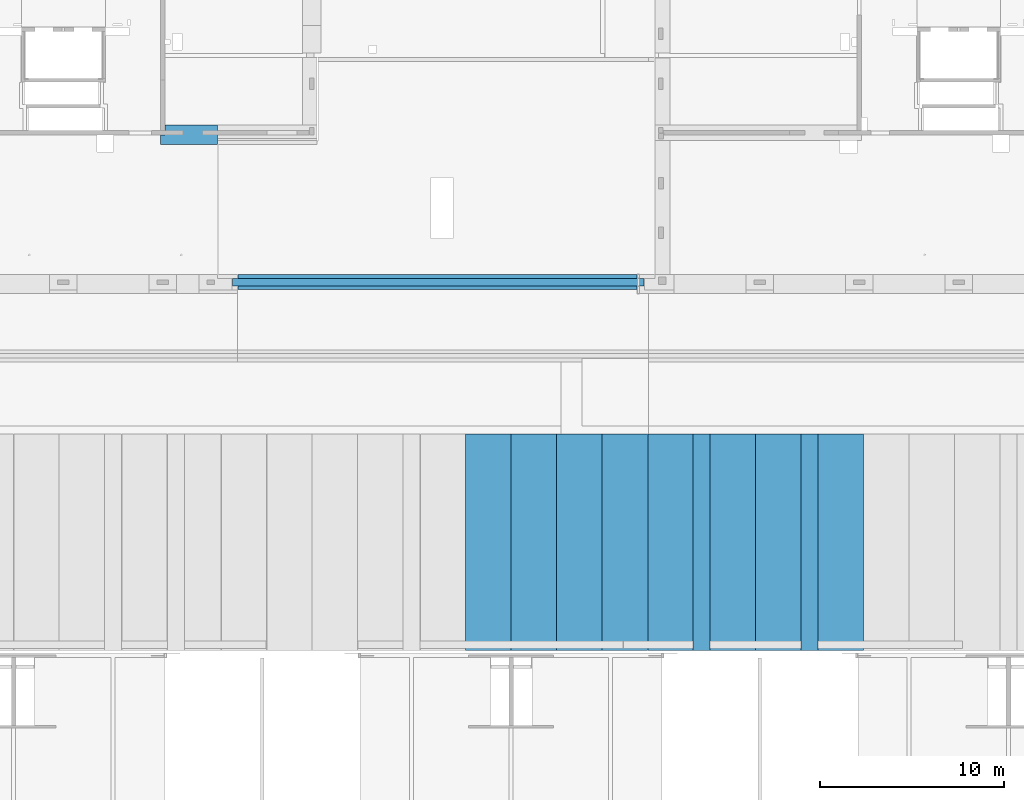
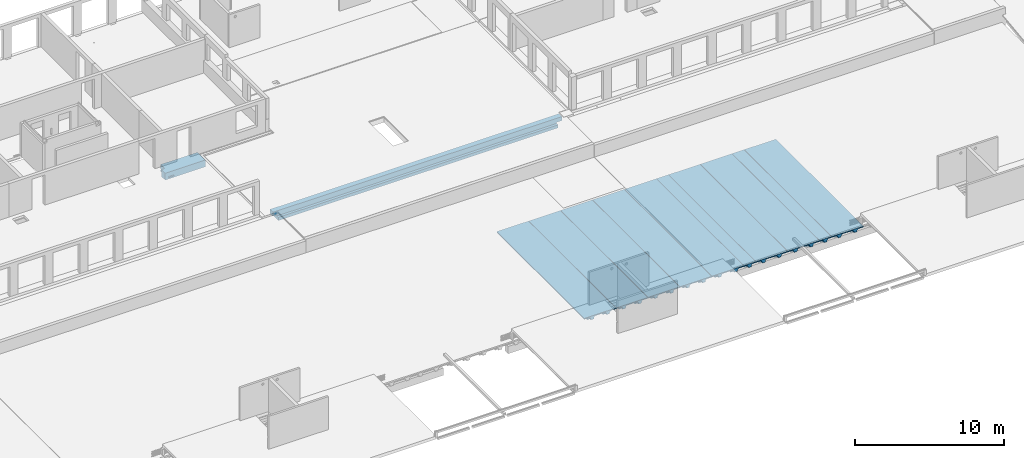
# One storey, part 29 of 36: 12 beams.
"""IFC2X3 building model written with IfcOpenShell, lengths in millimetres."""

from ifc_helpers import new_model, entity, si_unit, converted_unit, derived_unit, direction, frame, origin, place, context, subcontext, project, spatial, faceted_brep, material, type_object, element, save


model = new_model("IFC2X3")

# Units and contexts
model_context = context("Model", 3, precision=0.01, world=origin(), true_north=direction((6.12303176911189e-17, 1.0)))
body_context = subcontext(model_context, "Body", "Model", "MODEL_VIEW")
ifc_project = project(units=[si_unit("LENGTHUNIT", "METRE", prefix="MILLI"), si_unit("AREAUNIT", "SQUARE_METRE"), si_unit("VOLUMEUNIT", "CUBIC_METRE"), converted_unit("PLANEANGLEUNIT", "DEGREE", entity("IfcRatioMeasure", 0.0174532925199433), si_unit("PLANEANGLEUNIT", "RADIAN"), dimensions=[0, 0, 0, 0, 0, 0, 0]), si_unit("MASSUNIT", "GRAM", prefix="KILO"), derived_unit("MASSDENSITYUNIT", [(si_unit("MASSUNIT", "GRAM", prefix="KILO"), 1), (si_unit("LENGTHUNIT", "METRE"), -3)]), si_unit("TIMEUNIT", "SECOND"), si_unit("FREQUENCYUNIT", "HERTZ"), si_unit("THERMODYNAMICTEMPERATUREUNIT", "DEGREE_CELSIUS"), derived_unit("THERMALTRANSMITTANCEUNIT", [(si_unit("MASSUNIT", "GRAM", prefix="KILO"), 1), (si_unit("THERMODYNAMICTEMPERATUREUNIT", "KELVIN"), -1), (si_unit("TIMEUNIT", "SECOND"), -3)]), derived_unit("VOLUMETRICFLOWRATEUNIT", [(si_unit("LENGTHUNIT", "METRE"), 3), (si_unit("TIMEUNIT", "SECOND"), -1)]), si_unit("ELECTRICCURRENTUNIT", "AMPERE"), si_unit("ELECTRICVOLTAGEUNIT", "VOLT"), si_unit("POWERUNIT", "WATT"), si_unit("FORCEUNIT", "NEWTON", prefix="KILO"), si_unit("ILLUMINANCEUNIT", "LUX"), si_unit("LUMINOUSFLUXUNIT", "LUMEN"), si_unit("LUMINOUSINTENSITYUNIT", "CANDELA"), derived_unit("USERDEFINED", [(si_unit("MASSUNIT", "GRAM", prefix="KILO"), -1), (si_unit("LENGTHUNIT", "METRE"), -2), (si_unit("TIMEUNIT", "SECOND"), 3), (si_unit("LUMINOUSFLUXUNIT", "LUMEN"), 1)]), derived_unit("LINEARVELOCITYUNIT", [(si_unit("LENGTHUNIT", "METRE"), 1), (si_unit("TIMEUNIT", "SECOND"), -1)]), si_unit("PRESSUREUNIT", "PASCAL"), derived_unit("USERDEFINED", [(si_unit("LENGTHUNIT", "METRE"), -2), (si_unit("MASSUNIT", "GRAM", prefix="KILO"), 1), (si_unit("TIMEUNIT", "SECOND"), -2)])], contexts=[model_context])

# Site, building, storey
site_placement = place(None, origin())
site = spatial("IfcSite", under=ifc_project, at=site_placement, Name="Default", CompositionType="ELEMENT")
building_placement = place(site_placement, origin())
building = spatial("IfcBuilding", under=site, at=building_placement, Name="niet gebruiken", CompositionType="ELEMENT")
storey_placement = place(building_placement, frame((0.0, 0.0, 12600.0)))
storey = spatial("IfcBuildingStorey", under=building, at=storey_placement, Name="04 vierde verdieping", CompositionType="ELEMENT", Elevation=12600.0)

# Beams
ifc_material_1 = material(Name="NLRS_f2_beton prefab")
beam_type_1 = type_object("IfcBeamType", Name="NLRS_28.11_SF_WPB_prefabbeton balk dubbele sponning_gen:800x660/200x410/200x410", PredefinedType="BEAM")
beam_1_placement = place(storey_placement, frame((52390.0, 28481.0, -900.0)))
element("IfcBeam", 1, at=beam_1_placement, inside=storey, type_object=beam_type_1, material=ifc_material_1, Name="NLRS_28.11_SF_WPB_prefabbeton balk dubbele sponning_gen:800x660/200x410/200x410", ObjectType="NLRS_28.11_SF_WPB_prefabbeton balk dubbele sponning_gen:800x660/200x410/200x410", context=body_context, shape_type="Brep", body=[
    faceted_brep([(0.0, 200.0, 660.0), (0.0, 600.0, 660.0), (0.0, 600.0, 335.0), (0.0, 200.0, 335.0), (22335.0, 600.0, 660.0), (22335.0, 200.0, 660.0), (22335.0, 200.0, 335.000000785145), (22335.0, 600.0, 335.000000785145), (260.0, 200.0, 660.0), (300.0, 0.0, 250.0), (300.0, 0.0, 0.0), (21935.0, 0.0, 0.0), (21935.0, 0.0, 250.0), (21935.0, 600.0, 335.000000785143), (21935.0, 600.0, 250.0), (300.0, 600.0, 250.0), (300.0, 600.0, 335.0), (300.0, 800.0, 250.0), (21935.0, 800.0, 250.0), (300.0, 200.0, 335.0), (300.0, 200.0, 250.0), (21935.0, 200.0, 250.0), (21935.0, 200.0, 335.000000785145), (300.0, 800.0, 0.0), (21935.0, 800.0, 0.0)], [[[0, 1, 2, 3]], [[4, 5, 6, 7]], [[1, 0, 8, 5, 4]], [[9, 10, 11, 12]], [[1, 4, 7, 13, 14, 15, 16, 2]], [[17, 15, 14, 18]], [[5, 8, 0, 3, 19, 20, 21, 22, 6]], [[20, 9, 12, 21]], [[23, 17, 18, 24]], [[10, 23, 24, 11]], [[10, 9, 20, 19, 16, 15, 17, 23]], [[3, 2, 16, 19]], [[13, 22, 21, 12, 11, 24, 18, 14]], [[22, 13, 7, 6]]]),
])
ifc_material_2 = material(Name="NLRS_f2_beton ihwg")
beam_type_2 = type_object("IfcBeamType", Name="NLRS_28.11_SF_WPB_betonbalk ihwg recht_gen:1050x560", PredefinedType="BEAM")
beam_2_placement = place(storey_placement, frame((48475.0, 36356.0, -900.0)))
element("IfcBeam", 2, at=beam_2_placement, inside=storey, type_object=beam_type_2, material=ifc_material_2, Name="NLRS_28.11_SF_WPB_betonbalk ihwg recht_gen:1050x560", ObjectType="NLRS_28.11_SF_WPB_betonbalk ihwg recht_gen:1050x560", context=body_context, shape_type="Brep", body=[
    faceted_brep([(0.0, 0.0, 0.0), (0.0, 0.0, 560.0), (0.0, 500.0, 560.0), (0.0, 500.0, 0.0), (3100.0, 0.0, 560.0), (3100.0, 20.0, 560.0), (3100.0, 200.0, 560.0), (3100.0, 325.0, 560.0), (3100.0, 1050.0, 560.0), (250.0, 1050.0, 560.0), (250.0, 500.0, 560.0), (3100.0, 0.0, 0.0), (3100.0, 0.0, 250.0), (250.0, 0.0, 210.0), (690.0, 0.0, 210.0), (690.0, 0.0, 110.0), (250.0, 0.0, 110.0), (250.0, 500.0, 0.0), (250.0, 1050.0, 0.0), (3100.0, 1050.0, 0.0), (250.0, 1050.0, 110.0), (690.0, 1050.0, 110.0), (690.0, 1050.0, 210.0), (250.0, 1050.0, 210.0), (250.0, 500.0, 110.0), (250.0, 500.0, 210.0)], [[[0, 1, 2, 3]], [[1, 4, 5, 6, 7, 8, 9, 10, 2]], [[1, 0, 11, 12, 4], [13, 14, 15, 16]], [[11, 0, 3, 17, 18, 19]], [[8, 19, 18, 20, 21, 22, 23, 9]], [[4, 12, 11, 19, 8, 7, 6, 5]], [[17, 24, 20, 18]], [[10, 25, 24, 17, 3, 2]], [[22, 14, 13, 25, 23]], [[15, 21, 20, 24, 16]], [[14, 22, 21, 15]], [[13, 16, 24, 25]], [[25, 10, 9, 23]]]),
])
beam_type_3 = type_object("IfcBeamType", Name="NLRS_28.11_SF_WPB_tt-plaatvloer Holcon 102B_gen:TT-plaat, b=2460", PredefinedType="BEAM")
beam_3_placement = place(storey_placement, frame((84173.2615012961, 8896.0, -1970.0), z_axis=(0.0, 0.0, 1.0), x_axis=(0.0, -1.0, 0.0)))
element("IfcBeam", 3, at=beam_3_placement, inside=storey, type_object=beam_type_3, material=ifc_material_1, Name="NLRS_28.11_SF_WPB_tt-plaatvloer Holcon 102B_gen:TT-plaat, b=2460", ObjectType="NLRS_28.11_SF_WPB_tt-plaatvloer Holcon 102B_gen:TT-plaat, b=2460", context=body_context, shape_type="Brep", body=[
    faceted_brep([(-11730.0, 0.0, 610.0), (-11730.0, 0.0, 529.999995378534), (0.0, 0.0, 529.999995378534), (0.0, 0.0, 610.0), (-520.0, 733.513622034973, 320.0), (-520.0, 493.468888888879, 320.0), (-520.0, 518.500000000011, 0.0), (-520.0, 708.482510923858, 0.0), (-11480.0, 501.29111111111, 220.0), (-11480.0, 725.691399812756, 220.0), (-11480.0, 708.482510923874, 0.0), (-11480.0, 518.50000000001, 0.0), (-11730.0, 744.000076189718, 454.059783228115), (-11730.0, 819.940288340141, 529.999995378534), (0.0, 819.940288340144, 529.999995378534), (0.0, 744.000076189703, 454.059783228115), (-11730.0, 1971.01904939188, 454.078756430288), (-11730.0, 2046.94028834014, 529.999995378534), (0.0, 2046.94028834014, 529.999995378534), (0.0, 1971.01904939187, 454.078756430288), (-11730.0, 1634.05971165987, 529.999995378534), (-11730.0, 1709.99992381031, 454.059783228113), (0.0, 1709.99992381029, 454.059783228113), (0.0, 1634.05971165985, 529.999995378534), (-11730.0, 2454.0, 610.0), (-11730.0, 2454.0, 529.999995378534), (-11730.0, 1952.7088888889, 220.0), (-11730.0, 1728.30860018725, 220.0), (-11730.0, 725.691399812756, 220.0), (-11730.0, 501.291111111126, 220.0), (-11730.0, 482.980950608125, 454.078756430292), (-11730.0, 407.059711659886, 529.999995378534), (0.0, 407.059711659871, 529.999995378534), (0.0, 482.980950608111, 454.078756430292), (0.0, 493.46888888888, 320.0), (0.0, 733.513622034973, 320.0), (0.0, 1720.48637796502, 320.0), (0.0, 1960.5311111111, 320.0), (0.0, 2454.0, 529.999995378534), (0.0, 2454.0, 610.0), (-520.0, 1935.5, 0.0), (-520.0, 1745.51748907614, 0.0), (-11480.0, 1745.51748907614, 0.0), (-11480.0, 1935.5, 0.0), (-520.0, 1960.53111111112, 320.0), (-11480.0, 1952.7088888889, 220.0), (-11480.0, 1728.30860018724, 220.0), (-520.0, 1720.48637796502, 320.0)], [[[0, 1, 2, 3]], [[4, 5, 6, 7]], [[8, 9, 10, 11]], [[12, 13, 14, 15]], [[16, 17, 18, 19]], [[20, 21, 22, 23]], [[0, 24, 25, 17, 16, 26, 27, 21, 20, 13, 12, 28, 29, 30, 31, 1]], [[3, 2, 32, 33, 34, 35, 15, 14, 23, 22, 36, 37, 19, 18, 38, 39]], [[1, 31, 32, 2]], [[24, 0, 3, 39]], [[25, 24, 39, 38]], [[17, 25, 38, 18]], [[13, 20, 23, 14]], [[40, 41, 42, 43]], [[16, 19, 37, 44, 40, 43, 45, 26]], [[22, 21, 27, 46, 42, 41, 47, 36]], [[12, 15, 35, 4, 7, 10, 9, 28]], [[7, 6, 11, 10]], [[33, 30, 29, 8, 11, 6, 5, 34]], [[5, 4, 35, 34]], [[9, 8, 29, 28]], [[31, 30, 33, 32]], [[47, 44, 37, 36]], [[46, 45, 43, 42]], [[44, 47, 41, 40]], [[45, 46, 27, 26]]]),
])
beam_4_placement = place(storey_placement, frame((80773.0, 8896.0, -1970.0), z_axis=(0.0, 0.0, 1.0), x_axis=(0.0, -1.0, 0.0)))
element("IfcBeam", 4, at=beam_4_placement, inside=storey, type_object=beam_type_3, material=ifc_material_1, Name="NLRS_28.11_SF_WPB_tt-plaatvloer Holcon 102B_gen:TT-plaat, b=2460", ObjectType="NLRS_28.11_SF_WPB_tt-plaatvloer Holcon 102B_gen:TT-plaat, b=2460", context=body_context, shape_type="Brep", body=[
    faceted_brep([(-11730.0, 0.0, 610.0), (-11730.0, 0.0, 529.999995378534), (0.0, 0.0, 529.999995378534), (0.0, 0.0, 610.0), (-520.0, 733.513622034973, 320.0), (-520.0, 493.468888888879, 320.0), (-520.0, 518.500000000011, 0.0), (-520.0, 708.482510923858, 0.0), (-11480.0, 501.29111111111, 220.0), (-11480.0, 725.691399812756, 220.0), (-11480.0, 708.482510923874, 0.0), (-11480.0, 518.50000000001, 0.0), (-11730.0, 744.000076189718, 454.059783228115), (-11730.0, 819.940288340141, 529.999995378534), (0.0, 819.940288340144, 529.999995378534), (0.0, 744.000076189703, 454.059783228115), (-11730.0, 1971.01904939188, 454.078756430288), (-11730.0, 2046.94028834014, 529.999995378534), (0.0, 2046.94028834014, 529.999995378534), (0.0, 1971.01904939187, 454.078756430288), (-11730.0, 1634.05971165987, 529.999995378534), (-11730.0, 1709.99992381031, 454.059783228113), (0.0, 1709.99992381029, 454.059783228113), (0.0, 1634.05971165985, 529.999995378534), (-11730.0, 2454.0, 610.0), (-11730.0, 2454.0, 529.999995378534), (-11730.0, 1952.7088888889, 220.0), (-11730.0, 1728.30860018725, 220.0), (-11730.0, 725.691399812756, 220.0), (-11730.0, 501.291111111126, 220.0), (-11730.0, 482.980950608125, 454.078756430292), (-11730.0, 407.059711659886, 529.999995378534), (0.0, 407.059711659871, 529.999995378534), (0.0, 482.980950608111, 454.078756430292), (0.0, 493.46888888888, 320.0), (0.0, 733.513622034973, 320.0), (0.0, 1720.48637796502, 320.0), (0.0, 1960.5311111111, 320.0), (0.0, 2454.0, 529.999995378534), (0.0, 2454.0, 610.0), (-520.0, 1935.5, 0.0), (-520.0, 1745.51748907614, 0.0), (-11480.0, 1745.51748907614, 0.0), (-11480.0, 1935.5, 0.0), (-520.0, 1960.53111111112, 320.0), (-11480.0, 1952.7088888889, 220.0), (-11480.0, 1728.30860018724, 220.0), (-520.0, 1720.48637796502, 320.0)], [[[0, 1, 2, 3]], [[4, 5, 6, 7]], [[8, 9, 10, 11]], [[12, 13, 14, 15]], [[16, 17, 18, 19]], [[20, 21, 22, 23]], [[0, 24, 25, 17, 16, 26, 27, 21, 20, 13, 12, 28, 29, 30, 31, 1]], [[3, 2, 32, 33, 34, 35, 15, 14, 23, 22, 36, 37, 19, 18, 38, 39]], [[1, 31, 32, 2]], [[24, 0, 3, 39]], [[25, 24, 39, 38]], [[17, 25, 38, 18]], [[13, 20, 23, 14]], [[40, 41, 42, 43]], [[16, 19, 37, 44, 40, 43, 45, 26]], [[22, 21, 27, 46, 42, 41, 47, 36]], [[12, 15, 35, 4, 7, 10, 9, 28]], [[7, 6, 11, 10]], [[33, 30, 29, 8, 11, 6, 5, 34]], [[5, 4, 35, 34]], [[9, 8, 29, 28]], [[31, 30, 33, 32]], [[46, 45, 43, 42]], [[45, 46, 27, 26]], [[44, 47, 41, 40]], [[47, 44, 37, 36]]]),
])
beam_5_placement = place(storey_placement, frame((78304.828288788, 8896.0, -1970.0), z_axis=(0.0, 0.0, 1.0), x_axis=(0.0, -1.0, 0.0)))
element("IfcBeam", 5, at=beam_5_placement, inside=storey, type_object=beam_type_3, material=ifc_material_1, Name="NLRS_28.11_SF_WPB_tt-plaatvloer Holcon 102B_gen:TT-plaat, b=2460", ObjectType="NLRS_28.11_SF_WPB_tt-plaatvloer Holcon 102B_gen:TT-plaat, b=2460", context=body_context, shape_type="Brep", body=[
    faceted_brep([(-11730.0, 0.0, 610.0), (-11730.0, 0.0, 529.999995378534), (0.0, 0.0, 529.999995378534), (0.0, 0.0, 610.0), (-520.0, 733.513622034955, 320.0), (-520.0, 493.468888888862, 320.0), (-520.0, 518.499999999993, 0.0), (-520.0, 708.482510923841, 0.0), (-11480.0, 501.291111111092, 220.0), (-11480.0, 725.691399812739, 220.0), (-11480.0, 708.482510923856, 0.0), (-11480.0, 518.499999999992, 0.0), (-11730.0, 744.000076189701, 454.059783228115), (-11730.0, 819.940288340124, 529.999995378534), (0.0, 819.940288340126, 529.999995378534), (0.0, 744.000076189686, 454.059783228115), (-11730.0, 1971.01904939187, 454.078756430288), (-11730.0, 2046.94028834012, 529.999995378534), (0.0, 2046.94028834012, 529.999995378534), (0.0, 1971.01904939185, 454.078756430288), (-11730.0, 1634.05971165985, 529.999995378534), (-11730.0, 1709.99992381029, 454.059783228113), (0.0, 1709.99992381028, 454.059783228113), (0.0, 1634.05971165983, 529.999995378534), (-11730.0, 2454.0, 610.0), (-11730.0, 2454.0, 529.999995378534), (-11730.0, 1952.70888888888, 220.0), (-11730.0, 1728.30860018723, 220.0), (-11730.0, 725.691399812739, 220.0), (-11730.0, 501.291111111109, 220.0), (-11730.0, 482.980950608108, 454.078756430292), (-11730.0, 407.059711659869, 529.999995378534), (0.0, 407.059711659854, 529.999995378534), (0.0, 482.980950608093, 454.078756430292), (0.0, 493.468888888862, 320.0), (0.0, 733.513622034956, 320.0), (0.0, 1720.48637796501, 320.0), (0.0, 1960.53111111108, 320.0), (0.0, 2454.0, 529.999995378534), (0.0, 2454.0, 610.0), (-520.0, 1935.49999999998, 0.0), (-520.0, 1745.51748907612, 0.0), (-11480.0, 1745.51748907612, 0.0), (-11480.0, 1935.49999999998, 0.0), (-520.0, 1960.5311111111, 320.0), (-11480.0, 1952.70888888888, 220.0), (-11480.0, 1728.30860018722, 220.0), (-520.0, 1720.486377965, 320.0)], [[[0, 1, 2, 3]], [[4, 5, 6, 7]], [[8, 9, 10, 11]], [[12, 13, 14, 15]], [[16, 17, 18, 19]], [[20, 21, 22, 23]], [[0, 24, 25, 17, 16, 26, 27, 21, 20, 13, 12, 28, 29, 30, 31, 1]], [[3, 2, 32, 33, 34, 35, 15, 14, 23, 22, 36, 37, 19, 18, 38, 39]], [[1, 31, 32, 2]], [[24, 0, 3, 39]], [[25, 24, 39, 38]], [[17, 25, 38, 18]], [[13, 20, 23, 14]], [[40, 41, 42, 43]], [[16, 19, 37, 44, 40, 43, 45, 26]], [[22, 21, 27, 46, 42, 41, 47, 36]], [[12, 15, 35, 4, 7, 10, 9, 28]], [[7, 6, 11, 10]], [[33, 30, 29, 8, 11, 6, 5, 34]], [[5, 4, 35, 34]], [[9, 8, 29, 28]], [[31, 30, 33, 32]], [[45, 46, 27, 26]], [[47, 44, 37, 36]], [[44, 47, 41, 40]], [[46, 45, 43, 42]]]),
])
beam_6_placement = place(storey_placement, frame((74923.0, 8896.0, -1970.0), z_axis=(0.0, 0.0, 1.0), x_axis=(0.0, -1.0, 0.0)))
element("IfcBeam", 6, at=beam_6_placement, inside=storey, type_object=beam_type_3, material=ifc_material_1, Name="NLRS_28.11_SF_WPB_tt-plaatvloer Holcon 102B_gen:TT-plaat, b=2460", ObjectType="NLRS_28.11_SF_WPB_tt-plaatvloer Holcon 102B_gen:TT-plaat, b=2460", context=body_context, shape_type="Brep", body=[
    faceted_brep([(-11730.0, 0.0, 610.0), (-11730.0, 0.0, 529.999995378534), (0.0, 0.0, 529.999995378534), (0.0, 0.0, 610.0), (-520.0, 733.513622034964, 320.0), (-520.0, 493.468888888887, 320.0), (-520.0, 518.500000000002, 0.0), (-520.0, 708.482510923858, 0.0), (-11480.0, 501.29111111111, 220.0), (-11480.0, 725.691399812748, 220.0), (-11480.0, 708.482510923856, 0.0), (-11480.0, 518.500000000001, 0.0), (-11730.0, 744.000076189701, 454.059783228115), (-11730.0, 819.940288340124, 529.999995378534), (0.0, 819.940288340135, 529.999995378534), (0.0, 744.000076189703, 454.059783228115), (-11730.0, 1971.01904939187, 454.078756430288), (-11730.0, 2046.94028834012, 529.999995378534), (0.0, 2046.94028834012, 529.999995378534), (0.0, 1971.01904939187, 454.078756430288), (-11730.0, 1634.05971165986, 529.999995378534), (-11730.0, 1709.99992381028, 454.059783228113), (0.0, 1709.99992381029, 454.059783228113), (0.0, 1634.05971165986, 529.999995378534), (-11730.0, 2454.0, 610.0), (-11730.0, 2454.0, 529.999995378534), (-11730.0, 1952.70888888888, 220.0), (-11730.0, 1728.30860018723, 220.0), (-11730.0, 725.691399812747, 220.0), (-11730.0, 501.2911111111, 220.0), (-11730.0, 482.980950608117, 454.078756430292), (-11730.0, 407.059711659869, 529.999995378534), (0.0, 407.059711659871, 529.999995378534), (0.0, 482.980950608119, 454.078756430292), (0.0, 493.468888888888, 320.0), (0.0, 733.513622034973, 320.0), (0.0, 1720.48637796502, 320.0), (0.0, 1960.5311111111, 320.0), (0.0, 2454.0, 529.999995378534), (0.0, 2454.0, 610.0), (-520.0, 1935.5, 0.0), (-520.0, 1745.51748907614, 0.0), (-11480.0, 1745.51748907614, 0.0), (-11480.0, 1935.49999999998, 0.0), (-520.0, 1960.53111111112, 320.0), (-11480.0, 1952.70888888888, 220.0), (-11480.0, 1728.30860018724, 220.0), (-520.0, 1720.48637796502, 320.0)], [[[0, 1, 2, 3]], [[4, 5, 6, 7]], [[8, 9, 10, 11]], [[12, 13, 14, 15]], [[16, 17, 18, 19]], [[20, 21, 22, 23]], [[0, 24, 25, 17, 16, 26, 27, 21, 20, 13, 12, 28, 29, 30, 31, 1]], [[3, 2, 32, 33, 34, 35, 15, 14, 23, 22, 36, 37, 19, 18, 38, 39]], [[1, 31, 32, 2]], [[24, 0, 3, 39]], [[25, 24, 39, 38]], [[17, 25, 38, 18]], [[13, 20, 23, 14]], [[40, 41, 42, 43]], [[16, 19, 37, 44, 40, 43, 45, 26]], [[22, 21, 27, 46, 42, 41, 47, 36]], [[12, 15, 35, 4, 7, 10, 9, 28]], [[7, 6, 11, 10]], [[33, 30, 29, 8, 11, 6, 5, 34]], [[5, 4, 35, 34]], [[9, 8, 29, 28]], [[31, 30, 33, 32]], [[45, 46, 27, 26]], [[46, 45, 43, 42]], [[47, 44, 37, 36]], [[44, 47, 41, 40]]]),
])
beam_7_placement = place(storey_placement, frame((72443.0, 8896.0, -1970.0), z_axis=(0.0, 0.0, 1.0), x_axis=(0.0, -1.0, 0.0)))
element("IfcBeam", 7, at=beam_7_placement, inside=storey, type_object=beam_type_3, material=ifc_material_1, Name="NLRS_28.11_SF_WPB_tt-plaatvloer Holcon 102B_gen:TT-plaat, b=2460", ObjectType="NLRS_28.11_SF_WPB_tt-plaatvloer Holcon 102B_gen:TT-plaat, b=2460", context=body_context, shape_type="Brep", body=[
    faceted_brep([(-11730.0, 0.0, 610.0), (-11730.0, 0.0, 529.999995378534), (0.0, 0.0, 529.999995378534), (0.0, 0.0, 610.0), (-520.0, 733.513622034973, 320.0), (-520.0, 493.468888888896, 320.0), (-520.0, 518.500000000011, 0.0), (-520.0, 708.482510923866, 0.0), (-11480.0, 501.291111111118, 220.0), (-11480.0, 725.691399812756, 220.0), (-11480.0, 708.482510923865, 0.0), (-11480.0, 518.50000000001, 0.0), (-11730.0, 744.000076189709, 454.059783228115), (-11730.0, 819.940288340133, 529.999995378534), (0.0, 819.940288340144, 529.999995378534), (0.0, 744.000076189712, 454.059783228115), (-11730.0, 1971.01904939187, 454.078756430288), (-11730.0, 2046.94028834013, 529.999995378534), (0.0, 2046.94028834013, 529.999995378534), (0.0, 1971.01904939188, 454.078756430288), (-11730.0, 1634.05971165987, 529.999995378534), (-11730.0, 1709.99992381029, 454.059783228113), (0.0, 1709.9999238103, 454.059783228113), (0.0, 1634.05971165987, 529.999995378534), (-11730.0, 2454.0, 610.0), (-11730.0, 2454.0, 529.999995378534), (-11730.0, 1952.70888888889, 220.0), (-11730.0, 1728.30860018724, 220.0), (-11730.0, 725.691399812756, 220.0), (-11730.0, 501.291111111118, 220.0), (-11730.0, 482.980950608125, 454.078756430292), (-11730.0, 407.059711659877, 529.999995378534), (0.0, 407.05971165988, 529.999995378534), (0.0, 482.980950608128, 454.078756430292), (0.0, 493.468888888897, 320.0), (0.0, 733.513622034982, 320.0), (0.0, 1720.48637796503, 320.0), (0.0, 1960.53111111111, 320.0), (0.0, 2454.0, 529.999995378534), (0.0, 2454.0, 610.0), (-520.0, 1935.5, 0.0), (-520.0, 1745.51748907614, 0.0), (-11480.0, 1745.51748907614, 0.0), (-11480.0, 1935.5, 0.0), (-520.0, 1960.53111111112, 320.0), (-11480.0, 1952.70888888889, 220.0), (-11480.0, 1728.30860018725, 220.0), (-520.0, 1720.48637796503, 320.0)], [[[0, 1, 2, 3]], [[4, 5, 6, 7]], [[8, 9, 10, 11]], [[12, 13, 14, 15]], [[16, 17, 18, 19]], [[20, 21, 22, 23]], [[0, 24, 25, 17, 16, 26, 27, 21, 20, 13, 12, 28, 29, 30, 31, 1]], [[3, 2, 32, 33, 34, 35, 15, 14, 23, 22, 36, 37, 19, 18, 38, 39]], [[1, 31, 32, 2]], [[24, 0, 3, 39]], [[25, 24, 39, 38]], [[17, 25, 38, 18]], [[13, 20, 23, 14]], [[40, 41, 42, 43]], [[16, 19, 37, 44, 40, 43, 45, 26]], [[22, 21, 27, 46, 42, 41, 47, 36]], [[12, 15, 35, 4, 7, 10, 9, 28]], [[7, 6, 11, 10]], [[33, 30, 29, 8, 11, 6, 5, 34]], [[5, 4, 35, 34]], [[9, 8, 29, 28]], [[31, 30, 33, 32]], [[44, 47, 41, 40]], [[46, 45, 43, 42]], [[47, 44, 37, 36]], [[45, 46, 27, 26]]]),
])
beam_8_placement = place(storey_placement, frame((69975.4737168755, 8896.0, -1970.0), z_axis=(0.0, 0.0, 1.0), x_axis=(0.0, -1.0, 0.0)))
element("IfcBeam", 8, at=beam_8_placement, inside=storey, type_object=beam_type_3, material=ifc_material_1, Name="NLRS_28.11_SF_WPB_tt-plaatvloer Holcon 102B_gen:TT-plaat, b=2460", ObjectType="NLRS_28.11_SF_WPB_tt-plaatvloer Holcon 102B_gen:TT-plaat, b=2460", context=body_context, shape_type="Brep", body=[
    faceted_brep([(-11730.0, 0.0, 610.0), (-11730.0, 0.0, 529.999995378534), (0.0, 0.0, 529.999995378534), (0.0, 0.0, 610.0), (-520.0, 733.513622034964, 320.0), (-520.0, 493.468888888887, 320.0), (-520.0, 518.500000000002, 0.0), (-520.0, 708.482510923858, 0.0), (-11480.0, 501.29111111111, 220.0), (-11480.0, 725.691399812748, 220.0), (-11480.0, 708.482510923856, 0.0), (-11480.0, 518.500000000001, 0.0), (-11730.0, 744.000076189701, 454.059783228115), (-11730.0, 819.940288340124, 529.999995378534), (0.0, 819.940288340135, 529.999995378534), (0.0, 744.000076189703, 454.059783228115), (-11730.0, 1971.01904939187, 454.078756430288), (-11730.0, 2046.94028834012, 529.999995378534), (0.0, 2046.94028834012, 529.999995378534), (0.0, 1971.01904939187, 454.078756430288), (-11730.0, 1634.05971165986, 529.999995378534), (-11730.0, 1709.99992381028, 454.059783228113), (0.0, 1709.99992381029, 454.059783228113), (0.0, 1634.05971165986, 529.999995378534), (-11730.0, 2454.0, 610.0), (-11730.0, 2454.0, 529.999995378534), (-11730.0, 1952.70888888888, 220.0), (-11730.0, 1728.30860018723, 220.0), (-11730.0, 725.691399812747, 220.0), (-11730.0, 501.2911111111, 220.0), (-11730.0, 482.980950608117, 454.078756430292), (-11730.0, 407.059711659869, 529.999995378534), (0.0, 407.059711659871, 529.999995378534), (0.0, 482.980950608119, 454.078756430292), (0.0, 493.468888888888, 320.0), (0.0, 733.513622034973, 320.0), (0.0, 1720.48637796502, 320.0), (0.0, 1960.5311111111, 320.0), (0.0, 2454.0, 529.999995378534), (0.0, 2454.0, 610.0), (-520.0, 1935.49999999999, 0.0), (-520.0, 1745.51748907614, 0.0), (-11480.0, 1745.51748907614, 0.0), (-11480.0, 1935.49999999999, 0.0), (-520.0, 1960.53111111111, 320.0), (-11480.0, 1952.70888888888, 220.0), (-11480.0, 1728.30860018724, 220.0), (-520.0, 1720.48637796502, 320.0)], [[[0, 1, 2, 3]], [[4, 5, 6, 7]], [[8, 9, 10, 11]], [[12, 13, 14, 15]], [[16, 17, 18, 19]], [[20, 21, 22, 23]], [[0, 24, 25, 17, 16, 26, 27, 21, 20, 13, 12, 28, 29, 30, 31, 1]], [[3, 2, 32, 33, 34, 35, 15, 14, 23, 22, 36, 37, 19, 18, 38, 39]], [[1, 31, 32, 2]], [[24, 0, 3, 39]], [[25, 24, 39, 38]], [[17, 25, 38, 18]], [[13, 20, 23, 14]], [[40, 41, 42, 43]], [[16, 19, 37, 44, 40, 43, 45, 26]], [[22, 21, 27, 46, 42, 41, 47, 36]], [[12, 15, 35, 4, 7, 10, 9, 28]], [[7, 6, 11, 10]], [[33, 30, 29, 8, 11, 6, 5, 34]], [[5, 4, 35, 34]], [[9, 8, 29, 28]], [[31, 30, 33, 32]], [[45, 46, 27, 26]], [[47, 44, 37, 36]], [[46, 45, 43, 42]], [[44, 47, 41, 40]]]),
])
beam_9_placement = place(storey_placement, frame((67505.9450114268, 8896.0, -1970.0), z_axis=(0.0, 0.0, 1.0), x_axis=(0.0, -1.0, 0.0)))
element("IfcBeam", 9, at=beam_9_placement, inside=storey, type_object=beam_type_3, material=ifc_material_1, Name="NLRS_28.11_SF_WPB_tt-plaatvloer Holcon 102B_gen:TT-plaat, b=2460", ObjectType="NLRS_28.11_SF_WPB_tt-plaatvloer Holcon 102B_gen:TT-plaat, b=2460", context=body_context, shape_type="Brep", body=[
    faceted_brep([(-11730.0, 0.0, 610.0), (-11730.0, 0.0, 529.999995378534), (0.0, 0.0, 529.999995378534), (0.0, 0.0, 610.0), (-520.0, 733.513622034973, 320.0), (-520.0, 493.468888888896, 320.0), (-520.0, 518.500000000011, 0.0), (-520.0, 708.482510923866, 0.0), (-11480.0, 501.291111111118, 220.0), (-11480.0, 725.691399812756, 220.0), (-11480.0, 708.482510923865, 0.0), (-11480.0, 518.50000000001, 0.0), (-11730.0, 744.000076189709, 454.059783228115), (-11730.0, 819.940288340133, 529.999995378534), (0.0, 819.940288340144, 529.999995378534), (0.0, 744.000076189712, 454.059783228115), (-11730.0, 1971.01904939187, 454.078756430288), (-11730.0, 2046.94028834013, 529.999995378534), (0.0, 2046.94028834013, 529.999995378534), (0.0, 1971.01904939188, 454.078756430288), (-11730.0, 1634.05971165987, 529.999995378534), (-11730.0, 1709.99992381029, 454.059783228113), (0.0, 1709.9999238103, 454.059783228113), (0.0, 1634.05971165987, 529.999995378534), (-11730.0, 2454.0, 610.0), (-11730.0, 2454.0, 529.999995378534), (-11730.0, 1952.70888888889, 220.0), (-11730.0, 1728.30860018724, 220.0), (-11730.0, 725.691399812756, 220.0), (-11730.0, 501.291111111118, 220.0), (-11730.0, 482.980950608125, 454.078756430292), (-11730.0, 407.059711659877, 529.999995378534), (0.0, 407.05971165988, 529.999995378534), (0.0, 482.980950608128, 454.078756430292), (0.0, 493.468888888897, 320.0), (0.0, 733.513622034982, 320.0), (0.0, 1720.48637796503, 320.0), (0.0, 1960.53111111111, 320.0), (0.0, 2454.0, 529.999995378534), (0.0, 2454.0, 610.0), (-520.0, 1935.5, 0.0), (-520.0, 1745.51748907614, 0.0), (-11480.0, 1745.51748907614, 0.0), (-11480.0, 1935.5, 0.0), (-520.0, 1960.53111111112, 320.0), (-11480.0, 1952.70888888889, 220.0), (-11480.0, 1728.30860018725, 220.0), (-520.0, 1720.48637796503, 320.0)], [[[0, 1, 2, 3]], [[4, 5, 6, 7]], [[8, 9, 10, 11]], [[12, 13, 14, 15]], [[16, 17, 18, 19]], [[20, 21, 22, 23]], [[0, 24, 25, 17, 16, 26, 27, 21, 20, 13, 12, 28, 29, 30, 31, 1]], [[3, 2, 32, 33, 34, 35, 15, 14, 23, 22, 36, 37, 19, 18, 38, 39]], [[1, 31, 32, 2]], [[24, 0, 3, 39]], [[25, 24, 39, 38]], [[17, 25, 38, 18]], [[13, 20, 23, 14]], [[40, 41, 42, 43]], [[16, 19, 37, 44, 40, 43, 45, 26]], [[22, 21, 27, 46, 42, 41, 47, 36]], [[12, 15, 35, 4, 7, 10, 9, 28]], [[7, 6, 11, 10]], [[33, 30, 29, 8, 11, 6, 5, 34]], [[5, 4, 35, 34]], [[9, 8, 29, 28]], [[31, 30, 33, 32]], [[47, 44, 37, 36]], [[45, 46, 27, 26]], [[44, 47, 41, 40]], [[46, 45, 43, 42]]]),
])
beam_10_placement = place(storey_placement, frame((65039.2268066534, 8896.0, -1970.0), z_axis=(0.0, 0.0, 1.0), x_axis=(0.0, -1.0, 0.0)))
element("IfcBeam", 10, at=beam_10_placement, inside=storey, type_object=beam_type_3, material=ifc_material_1, Name="NLRS_28.11_SF_WPB_tt-plaatvloer Holcon 102B_gen:TT-plaat, b=2460", ObjectType="NLRS_28.11_SF_WPB_tt-plaatvloer Holcon 102B_gen:TT-plaat, b=2460", context=body_context, shape_type="Brep", body=[
    faceted_brep([(-11730.0, 0.0, 610.0), (-11730.0, 0.0, 529.999995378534), (0.0, 0.0, 529.999995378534), (0.0, 0.0, 610.0), (-520.0, 733.513622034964, 320.0), (-520.0, 493.468888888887, 320.0), (-520.0, 518.500000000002, 0.0), (-520.0, 708.482510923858, 0.0), (-11480.0, 501.29111111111, 220.0), (-11480.0, 725.691399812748, 220.0), (-11480.0, 708.482510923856, 0.0), (-11480.0, 518.500000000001, 0.0), (-11730.0, 744.000076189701, 454.059783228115), (-11730.0, 819.940288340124, 529.999995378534), (0.0, 819.940288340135, 529.999995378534), (0.0, 744.000076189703, 454.059783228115), (-11730.0, 1971.01904939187, 454.078756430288), (-11730.0, 2046.94028834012, 529.999995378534), (0.0, 2046.94028834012, 529.999995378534), (0.0, 1971.01904939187, 454.078756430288), (-11730.0, 1634.05971165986, 529.999995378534), (-11730.0, 1709.99992381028, 454.059783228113), (0.0, 1709.99992381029, 454.059783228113), (0.0, 1634.05971165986, 529.999995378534), (-11730.0, 2454.0, 610.0), (-11730.0, 2454.0, 529.999995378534), (-11730.0, 1952.70888888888, 220.0), (-11730.0, 1728.30860018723, 220.0), (-11730.0, 725.691399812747, 220.0), (-11730.0, 501.2911111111, 220.0), (-11730.0, 482.980950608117, 454.078756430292), (-11730.0, 407.059711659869, 529.999995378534), (0.0, 407.059711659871, 529.999995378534), (0.0, 482.980950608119, 454.078756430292), (0.0, 493.468888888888, 320.0), (0.0, 733.513622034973, 320.0), (0.0, 1720.48637796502, 320.0), (0.0, 1960.5311111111, 320.0), (0.0, 2454.0, 529.999995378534), (0.0, 2454.0, 610.0), (-520.0, 1935.49999999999, 0.0), (-520.0, 1745.51748907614, 0.0), (-11480.0, 1745.51748907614, 0.0), (-11480.0, 1935.49999999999, 0.0), (-520.0, 1960.53111111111, 320.0), (-11480.0, 1952.70888888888, 220.0), (-11480.0, 1728.30860018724, 220.0), (-520.0, 1720.48637796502, 320.0)], [[[0, 1, 2, 3]], [[4, 5, 6, 7]], [[8, 9, 10, 11]], [[12, 13, 14, 15]], [[16, 17, 18, 19]], [[20, 21, 22, 23]], [[0, 24, 25, 17, 16, 26, 27, 21, 20, 13, 12, 28, 29, 30, 31, 1]], [[3, 2, 32, 33, 34, 35, 15, 14, 23, 22, 36, 37, 19, 18, 38, 39]], [[1, 31, 32, 2]], [[24, 0, 3, 39]], [[25, 24, 39, 38]], [[17, 25, 38, 18]], [[13, 20, 23, 14]], [[40, 41, 42, 43]], [[16, 19, 37, 44, 40, 43, 45, 26]], [[22, 21, 27, 46, 42, 41, 47, 36]], [[12, 15, 35, 4, 7, 10, 9, 28]], [[7, 6, 11, 10]], [[33, 30, 29, 8, 11, 6, 5, 34]], [[5, 4, 35, 34]], [[9, 8, 29, 28]], [[31, 30, 33, 32]], [[44, 47, 41, 40]], [[46, 45, 43, 42]], [[47, 44, 37, 36]], [[45, 46, 27, 26]]]),
])
beam_type_4 = type_object("IfcBeamType", Name="NLRS_28.11_SF_WPB_tt-plaatvloer Holcon 1 ligger_gen:TT-plaat 1 ligger b=930", PredefinedType="BEAM")
beam_11_placement = place(storey_placement, frame((77378.4337032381, 8896.0, -1970.0), z_axis=(0.0, 0.0, 1.0), x_axis=(0.0, -1.0, 0.0)))
element("IfcBeam", 11, at=beam_11_placement, inside=storey, type_object=beam_type_4, material=ifc_material_1, Name="NLRS_28.11_SF_WPB_tt-plaatvloer Holcon 1 ligger_gen:TT-plaat 1 ligger b=930", ObjectType="NLRS_28.11_SF_WPB_tt-plaatvloer Holcon 1 ligger_gen:TT-plaat 1 ligger b=930", context=body_context, shape_type="Brep", body=[
    faceted_brep([(-11730.0, 0.0, 610.0), (-11730.0, 924.0, 610.0), (-11730.0, 924.0, 529.999995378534), (-11730.0, 668.440288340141, 529.999995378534), (-11730.0, 592.519049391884, 454.078756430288), (-11730.0, 574.2088888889, 220.0), (-11730.0, 349.808600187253, 220.0), (-11730.0, 331.499923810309, 454.059783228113), (-11730.0, 255.559711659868, 529.999995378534), (-11730.0, 0.0, 529.999995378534), (0.0, 331.499923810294, 454.059783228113), (-11480.0, 349.808600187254, 220.0), (-11480.0, 367.017489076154, 0.0), (-520.0, 367.017489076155, 0.0), (-520.0, 341.98637796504, 320.0), (0.0, 341.986377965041, 320.0), (-11480.0, 574.208888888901, 220.0), (0.0, 592.519049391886, 454.078756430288), (0.0, 582.031111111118, 320.0), (-520.0, 582.031111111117, 320.0), (-520.0, 557.0, 0.0), (-11480.0, 557.0, 0.0), (0.0, 0.0, 610.0), (0.0, 0.0, 529.999995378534), (0.0, 255.559711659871, 529.999995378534), (0.0, 668.440288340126, 529.999995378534), (0.0, 924.0, 529.999995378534), (0.0, 924.0, 610.0)], [[[0, 1, 2, 3, 4, 5, 6, 7, 8, 9]], [[10, 7, 6, 11, 12, 13, 14, 15]], [[16, 11, 6, 5]], [[4, 17, 18, 19, 20, 21, 16, 5]], [[22, 23, 24, 10, 15, 18, 17, 25, 26, 27]], [[1, 0, 22, 27]], [[2, 1, 27, 26]], [[3, 2, 26, 25]], [[9, 8, 24, 23]], [[0, 9, 23, 22]], [[20, 13, 12, 21]], [[14, 19, 18, 15]], [[19, 14, 13, 20]], [[11, 16, 21, 12]], [[4, 3, 25, 17]], [[8, 7, 10, 24]]]),
])
beam_12_placement = place(storey_placement, frame((83238.0556159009, 8896.0, -1970.0), z_axis=(0.0, 0.0, 1.0), x_axis=(0.0, -1.0, 0.0)))
element("IfcBeam", 12, at=beam_12_placement, inside=storey, type_object=beam_type_4, material=ifc_material_1, Name="NLRS_28.11_SF_WPB_tt-plaatvloer Holcon 1 ligger_gen:TT-plaat 1 ligger b=930", ObjectType="NLRS_28.11_SF_WPB_tt-plaatvloer Holcon 1 ligger_gen:TT-plaat 1 ligger b=930", context=body_context, shape_type="Brep", body=[
    faceted_brep([(-11730.0, 0.0, 610.0), (-11730.0, 924.0, 610.0), (-11730.0, 924.0, 529.999995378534), (-11730.0, 668.440288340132, 529.999995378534), (-11730.0, 592.519049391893, 454.078756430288), (-11730.0, 574.208888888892, 220.0), (-11730.0, 349.808600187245, 220.0), (-11730.0, 331.4999238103, 454.059783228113), (-11730.0, 255.559711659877, 529.999995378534), (-11730.0, 0.0, 529.999995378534), (0.0, 331.499923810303, 454.059783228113), (-11480.0, 349.808600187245, 220.0), (-11480.0, 367.017489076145, 0.0), (-520.0, 367.017489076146, 0.0), (-520.0, 341.986377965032, 320.0), (0.0, 341.986377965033, 320.0), (-11480.0, 574.208888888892, 220.0), (0.0, 592.519049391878, 454.078756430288), (0.0, 582.031111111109, 320.0), (-520.0, 582.031111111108, 320.0), (-520.0, 557.0, 0.0), (-11480.0, 557.0, 0.0), (0.0, 0.0, 610.0), (0.0, 0.0, 529.999995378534), (0.0, 255.559711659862, 529.999995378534), (0.0, 668.440288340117, 529.999995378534), (0.0, 924.0, 529.999995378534), (0.0, 924.0, 610.0)], [[[0, 1, 2, 3, 4, 5, 6, 7, 8, 9]], [[10, 7, 6, 11, 12, 13, 14, 15]], [[16, 11, 6, 5]], [[4, 17, 18, 19, 20, 21, 16, 5]], [[22, 23, 24, 10, 15, 18, 17, 25, 26, 27]], [[1, 0, 22, 27]], [[2, 1, 27, 26]], [[3, 2, 26, 25]], [[9, 8, 24, 23]], [[0, 9, 23, 22]], [[20, 13, 12, 21]], [[14, 19, 18, 15]], [[19, 14, 13, 20]], [[11, 16, 21, 12]], [[4, 3, 25, 17]], [[8, 7, 10, 24]]]),
])

save(model, "model.ifc")
